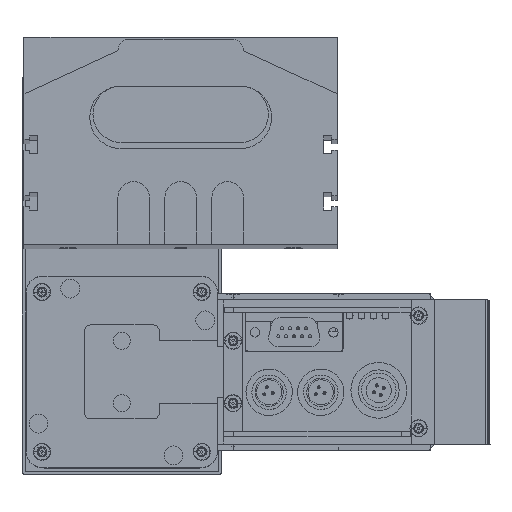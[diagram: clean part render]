
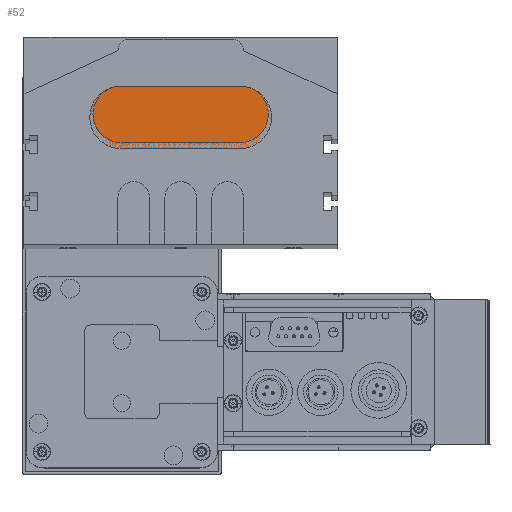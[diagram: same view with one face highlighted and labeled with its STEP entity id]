
A CAD part, top view. The second image highlights one B-rep face of the part: STEP entity #52.
In plain terms, the highlighted planar face has unit normal (0, 0, 1).
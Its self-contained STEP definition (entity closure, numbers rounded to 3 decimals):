
#4 = EDGE_CURVE ( 'NONE', #39118, #9, #8400, .T. ) ;
#9 = VERTEX_POINT ( 'NONE', #8346 ) ;
#14 = ORIENTED_EDGE ( 'NONE', *, *, #32333, .T. ) ;
#22 = ORIENTED_EDGE ( 'NONE', *, *, #4, .T. ) ;
#26 = EDGE_LOOP ( 'NONE', ( #28, #14, #41, #22, #33 ) ) ;
#27 = EDGE_CURVE ( 'NONE', #9, #32226, #8429, .T. ) ;
#28 = ORIENTED_EDGE ( 'NONE', *, *, #38724, .T. ) ;
#33 = ORIENTED_EDGE ( 'NONE', *, *, #27, .T. ) ;
#41 = ORIENTED_EDGE ( 'NONE', *, *, #39130, .T. ) ;
#52 = ADVANCED_FACE ( 'NONE', ( #8458 ), #8454, .T. ) ;
#8346 = CARTESIAN_POINT ( 'NONE',  ( 38., 20., 10. ) ) ;
#8385 = DIRECTION ( 'NONE',  ( -1., 0., 0. ) ) ;
#8386 = DIRECTION ( 'NONE',  ( 0., 0., 1. ) ) ;
#8387 = CARTESIAN_POINT ( 'NONE',  ( 38., 10., 10. ) ) ;
#8391 = AXIS2_PLACEMENT_3D ( 'NONE', #8387, #8386, #8385 ) ;
#8400 = CIRCLE ( 'NONE', #8391, 10. ) ;
#8415 = DIRECTION ( 'NONE',  ( -1., 0., 0. ) ) ;
#8416 = VECTOR ( 'NONE', #8415, 1000. ) ;
#8417 = CARTESIAN_POINT ( 'NONE',  ( 0., 20., 10. ) ) ;
#8429 = LINE ( 'NONE', #8417, #8416 ) ;
#8448 = DIRECTION ( 'NONE',  ( 1., 0., 0. ) ) ;
#8449 = DIRECTION ( 'NONE',  ( 0., 0., 1. ) ) ;
#8454 = PLANE ( 'NONE',  #8457 ) ;
#8457 = AXIS2_PLACEMENT_3D ( 'NONE', #8459, #8449, #8448 ) ;
#8458 = FACE_OUTER_BOUND ( 'NONE', #26, .T. ) ;
#8459 = CARTESIAN_POINT ( 'NONE',  ( 0., 10., 10. ) ) ;
#32165 = VERTEX_POINT ( 'NONE', #34763 ) ;
#32169 = VERTEX_POINT ( 'NONE', #34815 ) ;
#32226 = VERTEX_POINT ( 'NONE', #34805 ) ;
#32333 = EDGE_CURVE ( 'NONE', #32169, #32165, #34854, .T. ) ;
#34763 = CARTESIAN_POINT ( 'NONE',  ( 0., 0., 10. ) ) ;
#34804 = CARTESIAN_POINT ( 'NONE',  ( 0., 10., 10. ) ) ;
#34805 = CARTESIAN_POINT ( 'NONE',  ( 0., 20., 10. ) ) ;
#34815 = CARTESIAN_POINT ( 'NONE',  ( -10., 10., 10. ) ) ;
#34841 = DIRECTION ( 'NONE',  ( 1., 0., 0. ) ) ;
#34842 = AXIS2_PLACEMENT_3D ( 'NONE', #34804, #34849, #34841 ) ;
#34849 = DIRECTION ( 'NONE',  ( 0., 0., 1. ) ) ;
#34854 = CIRCLE ( 'NONE', #34842, 10. ) ;
#35073 = DIRECTION ( 'NONE',  ( 1., 0., 0. ) ) ;
#35074 = DIRECTION ( 'NONE',  ( 0., 0., 1. ) ) ;
#35075 = CARTESIAN_POINT ( 'NONE',  ( 0., 10., 10. ) ) ;
#35080 = CIRCLE ( 'NONE', #35086, 10. ) ;
#35086 = AXIS2_PLACEMENT_3D ( 'NONE', #35075, #35074, #35073 ) ;
#35107 = CARTESIAN_POINT ( 'NONE',  ( 38., 0., 10. ) ) ;
#35128 = DIRECTION ( 'NONE',  ( 1., 0., 0. ) ) ;
#35129 = VECTOR ( 'NONE', #35128, 1000. ) ;
#35135 = CARTESIAN_POINT ( 'NONE',  ( 0., 0., 10. ) ) ;
#35136 = LINE ( 'NONE', #35135, #35129 ) ;
#38724 = EDGE_CURVE ( 'NONE', #32226, #32169, #35080, .T. ) ;
#39118 = VERTEX_POINT ( 'NONE', #35107 ) ;
#39130 = EDGE_CURVE ( 'NONE', #32165, #39118, #35136, .T. ) ;
